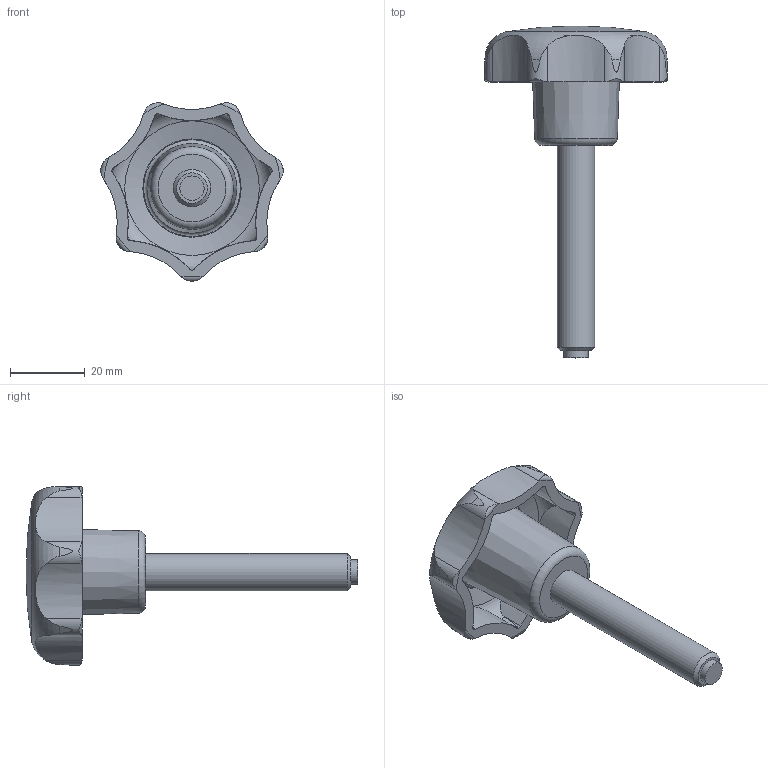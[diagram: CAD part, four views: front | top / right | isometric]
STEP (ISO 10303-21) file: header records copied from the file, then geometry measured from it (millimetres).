
FILE_DESCRIPTION( ( 'STEP AP203' ), '1' );
FILE_NAME( 'C:/Temp/Ganter_Step_05_03_2020/data/2_2/gn6336_10/Star knob GN 6336.10-50-M10-55-KU.stp', '2020-03-05T12:04:29', ( 'License CC BY-ND 4.0' ), ( 'CADENAS' ), ' ', 'PARTsolutions', ' ' );
FILE_SCHEMA( ( 'CONFIG_CONTROL_DESIGN' ) );
Length unit declared in the file: millimetre
Products named in the file (1): _Star knob GN 6336.10-50-M10-55-KU
Bounding box: 48.81 x 88.9 x 47.78 mm (x, y, z)
Volume: 24951.8 mm3; surface area: 10026.7 mm2
Topology: 1 solids, 1 shells, 64 faces, 189 edges, 129 vertices
Faces by surface type: cylinder 30, cone 17, torus 12, plane 4, sphere 1
Full cylindrical faces by diameter (mm): 6.5 x1, 10 x1
Entity records: 3108 total; most frequent: CARTESIAN_POINT 1546, ORIENTED_EDGE 346, DIRECTION 266, EDGE_CURVE 173, VERTEX_POINT 125, AXIS2_PLACEMENT_3D 119, B_SPLINE_CURVE_WITH_KNOTS 91, EDGE_LOOP 77
